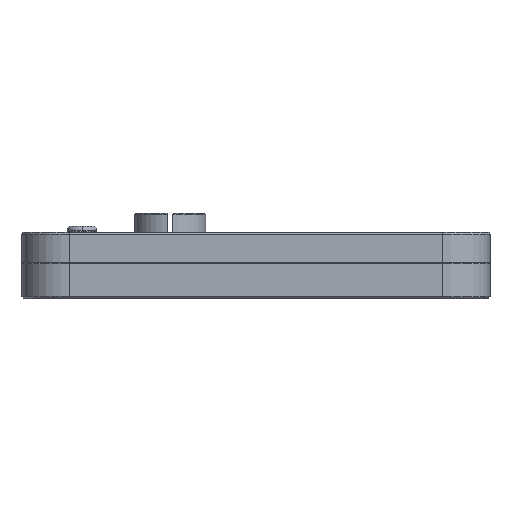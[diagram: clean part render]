
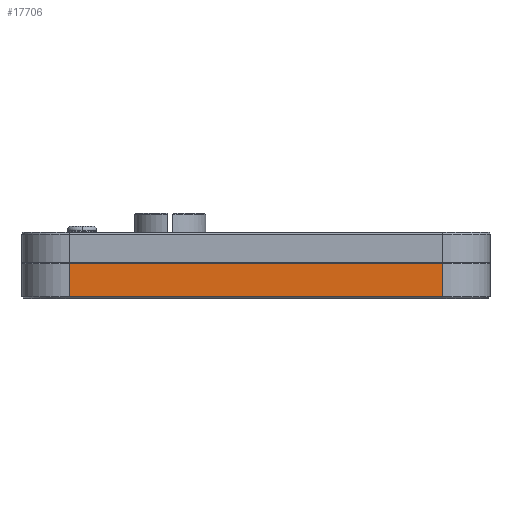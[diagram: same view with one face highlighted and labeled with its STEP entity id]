
A CAD part, left-side view. The second image highlights one B-rep face of the part: STEP entity #17706.
In plain terms, the highlighted planar face has unit normal (-1, 0, 0) as drawn and (1, 0, 0) by its records, which use the part's own axes.
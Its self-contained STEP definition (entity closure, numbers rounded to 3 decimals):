
#1123 = ORIENTED_EDGE ( 'NONE', *, *, #58887, .T. ) ;
#6969 = CARTESIAN_POINT ( 'NONE',  ( 96.947, 9.075, 9. ) ) ;
#13056 = LINE ( 'NONE', #6969, #74152 ) ;
#14754 = EDGE_CURVE ( 'NONE', #63071, #73142, #62246, .T. ) ;
#17706 = ADVANCED_FACE ( 'NONE', ( #56728 ), #83645, .F. ) ;
#21424 = CARTESIAN_POINT ( 'NONE',  ( 96.947, 127.075, 9. ) ) ;
#31080 = DIRECTION ( 'NONE',  ( 0., -1., 0. ) ) ;
#34415 = LINE ( 'NONE', #21424, #38566 ) ;
#37593 = CARTESIAN_POINT ( 'NONE',  ( 96.947, 0., 9. ) ) ;
#38566 = VECTOR ( 'NONE', #81314, 1000. ) ;
#44038 = ORIENTED_EDGE ( 'NONE', *, *, #14754, .T. ) ;
#45217 = AXIS2_PLACEMENT_3D ( 'NONE', #37593, #50595, #31080 ) ;
#45792 = CARTESIAN_POINT ( 'NONE',  ( 96.947, 9.075, 11. ) ) ;
#46931 = VERTEX_POINT ( 'NONE', #59215 ) ;
#48921 = ORIENTED_EDGE ( 'NONE', *, *, #68581, .T. ) ;
#50595 = DIRECTION ( 'NONE',  ( -1., 0., 0. ) ) ;
#52748 = CARTESIAN_POINT ( 'NONE',  ( 96.947, 127.075, 11. ) ) ;
#53128 = VERTEX_POINT ( 'NONE', #80503 ) ;
#55729 = CARTESIAN_POINT ( 'NONE',  ( 96.947, 9.075, 11. ) ) ;
#56169 = DIRECTION ( 'NONE',  ( 0., -1., 0. ) ) ;
#56728 = FACE_OUTER_BOUND ( 'NONE', #65075, .T. ) ;
#57256 = EDGE_CURVE ( 'NONE', #63071, #53128, #34415, .T. ) ;
#58887 = EDGE_CURVE ( 'NONE', #46931, #53128, #81672, .T. ) ;
#59215 = CARTESIAN_POINT ( 'NONE',  ( 96.947, 9.075, 0.5 ) ) ;
#62246 = LINE ( 'NONE', #55729, #80714 ) ;
#63071 = VERTEX_POINT ( 'NONE', #52748 ) ;
#65075 = EDGE_LOOP ( 'NONE', ( #48921, #1123, #70225, #44038 ) ) ;
#68175 = CARTESIAN_POINT ( 'NONE',  ( 96.947, 0., 0.5 ) ) ;
#68581 = EDGE_CURVE ( 'NONE', #73142, #46931, #13056, .T. ) ;
#70225 = ORIENTED_EDGE ( 'NONE', *, *, #57256, .F. ) ;
#73142 = VERTEX_POINT ( 'NONE', #45792 ) ;
#74152 = VECTOR ( 'NONE', #85050, 1000. ) ;
#80503 = CARTESIAN_POINT ( 'NONE',  ( 96.947, 127.075, 0.5 ) ) ;
#80714 = VECTOR ( 'NONE', #56169, 1000. ) ;
#81314 = DIRECTION ( 'NONE',  ( 0., 0., -1. ) ) ;
#81672 = LINE ( 'NONE', #68175, #84974 ) ;
#83371 = DIRECTION ( 'NONE',  ( 0., 1., 0. ) ) ;
#83645 = PLANE ( 'NONE',  #45217 ) ;
#84974 = VECTOR ( 'NONE', #83371, 1000. ) ;
#85050 = DIRECTION ( 'NONE',  ( 0., 0., -1. ) ) ;
